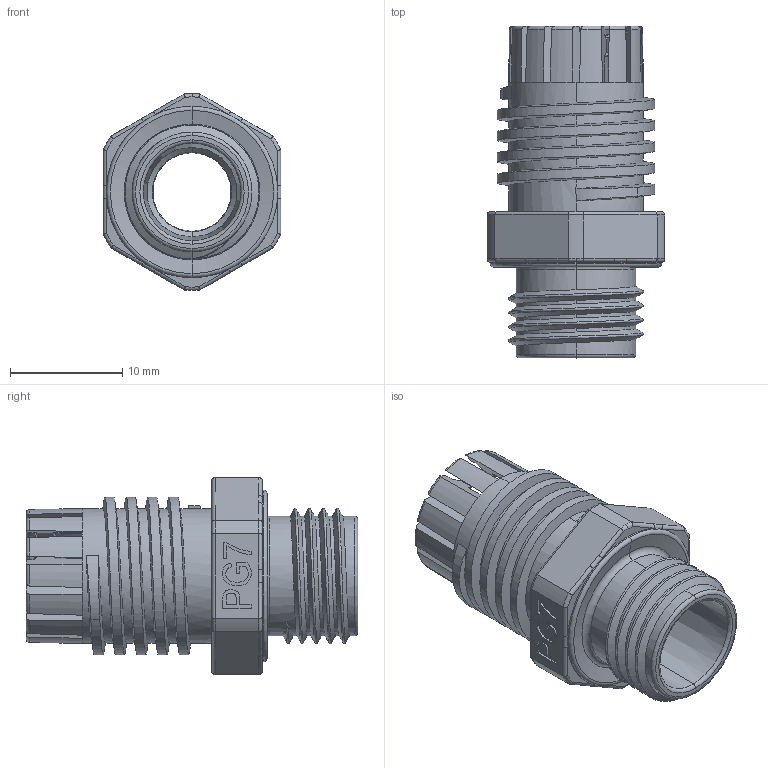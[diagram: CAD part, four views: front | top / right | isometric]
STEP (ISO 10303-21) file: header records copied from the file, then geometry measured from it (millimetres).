
FILE_DESCRIPTION (( 'STEP AP214' ), '1' );
FILE_NAME ('plc-pg-7-00.00.001 昢膼瘔 (PG7) #base (PG7)#.STEP', '2024-04-23T13:37:15', ( '' ), ( '' ), 'SwSTEP 2.0', 'SolidWorks 2021', '' );
FILE_SCHEMA (( 'AUTOMOTIVE_DESIGN' ));
Length unit declared in the file: millimetre
Products named in the file (1): plc-pg-7-00.00.001 昢膼瘔 (PG7) #base (PG7)#
Bounding box: 15.8 x 29.5 x 17.5 mm (x, y, z)
Volume: 2041.1 mm3; surface area: 2915.1 mm2
Topology: 1 solids, 1 shells, 369 faces, 966 edges, 608 vertices
Faces by surface type: plane 146, cone 71, cylinder 65, torus 51, bspline 36
Entity records: 15345 total; most frequent: CARTESIAN_POINT 6140, ORIENTED_EDGE 1932, DIRECTION 1531, EDGE_CURVE 966, VERTEX_POINT 608, AXIS2_PLACEMENT_3D 595, EDGE_LOOP 380, FACE_OUTER_BOUND 369
